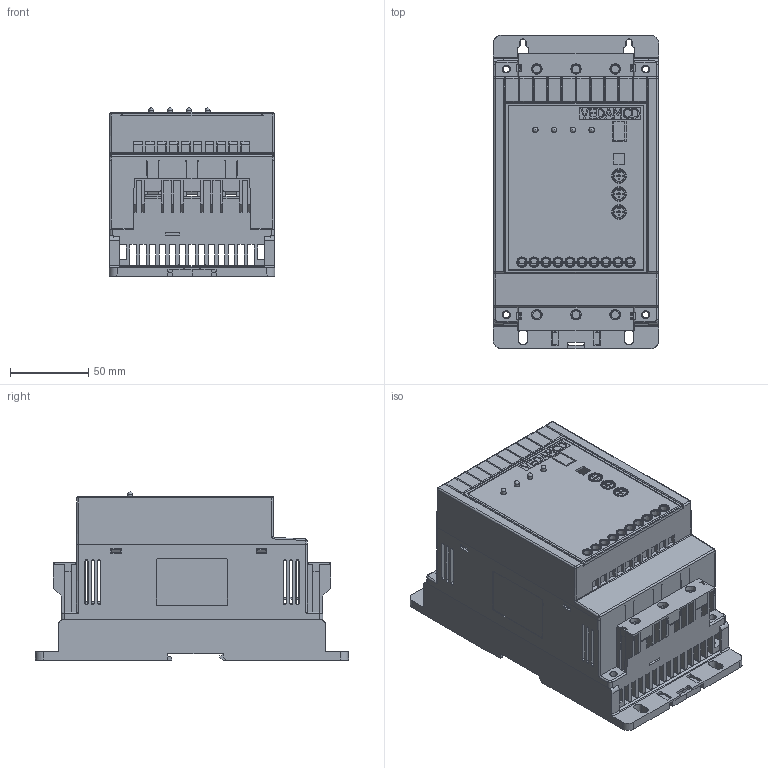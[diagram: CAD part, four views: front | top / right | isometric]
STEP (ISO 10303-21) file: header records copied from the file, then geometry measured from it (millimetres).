
FILE_DESCRIPTION(/* description */ (''),/* implementation_level */ '2;1');
FILE_NAME(/* name */ 'O:\БЭМ\Personal\Абрамов\262-20-1 ТП Драчево\3D Inventor\MCD1\Адаптированные\C2.stp',/* time_stamp */ '2023-10-04T07:29:52+03:00',/* author */ ('a.abramov'),/* organization */ (''),/* preprocessor_version */ 'ST-DEVELOPER v18.1',/* originating_system */ 'Autodesk Inventor 2022',/* authorisation */ '');
FILE_SCHEMA (('AUTOMOTIVE_DESIGN { 1 0 10303 214 3 1 1 }'));
Products named in the file (1): C2
Bounding box: 105.85 x 200 x 107.5 mm (x, y, z)
Volume: 488729.1 mm3; surface area: 393828.2 mm2
Topology: 1 solids, 21 shells, 3462 faces, 9886 edges, 6528 vertices
Faces by surface type: plane 2913, cylinder 266, cone 188, bspline 85, sphere 10
Full cylindrical faces by diameter (mm): 0.6 x8, 3 x18, 3.2 x4, 3.5 x5, 4 x21, 4.2 x4, 5.1 x1
Entity records: 119013 total; most frequent: CARTESIAN_POINT 24381, ORIENTED_EDGE 19762, DIRECTION 17438, EDGE_CURVE 9881, LINE 8376, VECTOR 8376, VERTEX_POINT 6533, AXIS2_PLACEMENT_3D 4531
